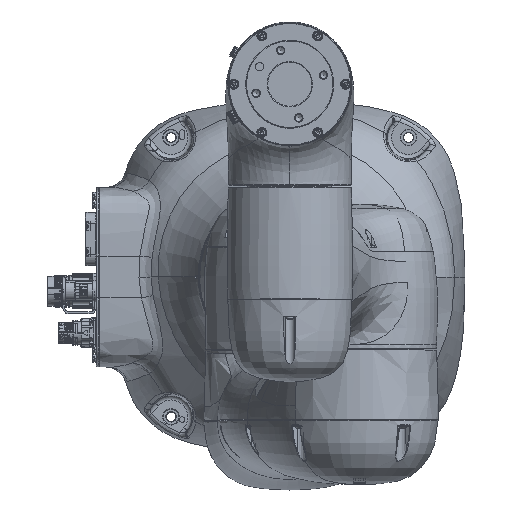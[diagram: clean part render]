
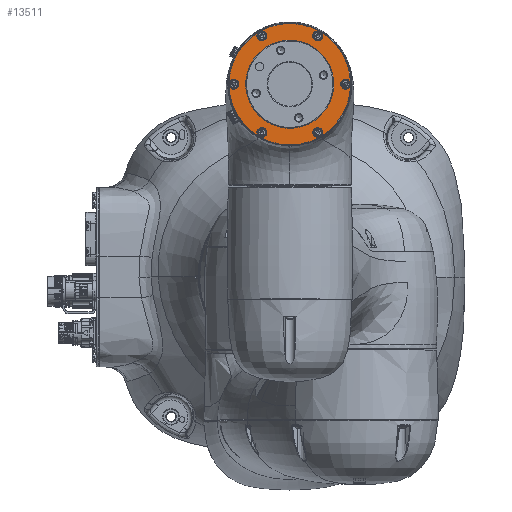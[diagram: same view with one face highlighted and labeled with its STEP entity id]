
A CAD part, top view. The second image highlights one B-rep face of the part: STEP entity #13511.
In plain terms, the highlighted planar face has unit normal (0, 0, 1).
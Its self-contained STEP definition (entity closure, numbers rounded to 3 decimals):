
#13511=ADVANCED_FACE('',(#20976,#20977),#16430,.T.);
#16430=PLANE('',#101543);
#20976=FACE_BOUND('',#26836,.T.);
#20977=FACE_BOUND('',#26837,.T.);
#26836=EDGE_LOOP('',(#55969));
#26837=EDGE_LOOP('',(#55970,#55971,#55972,#55973,#55974,#55975,#55976,#55977,
#55978,#55979,#55980,#55981));
#29893=CIRCLE('',#101530,31.5);
#29894=CIRCLE('',#101531,3.55);
#29895=CIRCLE('',#101532,43.5);
#29896=CIRCLE('',#101533,3.55);
#29897=CIRCLE('',#101534,43.5);
#29898=CIRCLE('',#101535,3.55);
#29899=CIRCLE('',#101536,43.5);
#29900=CIRCLE('',#101537,3.55);
#29901=CIRCLE('',#101538,43.5);
#29902=CIRCLE('',#101539,3.55);
#29903=CIRCLE('',#101540,43.5);
#29904=CIRCLE('',#101541,3.55);
#29905=CIRCLE('',#101542,43.5);
#55969=ORIENTED_EDGE('',*,*,#79000,.F.);
#55970=ORIENTED_EDGE('',*,*,#79001,.T.);
#55971=ORIENTED_EDGE('',*,*,#79002,.T.);
#55972=ORIENTED_EDGE('',*,*,#79003,.T.);
#55973=ORIENTED_EDGE('',*,*,#79004,.T.);
#55974=ORIENTED_EDGE('',*,*,#79005,.T.);
#55975=ORIENTED_EDGE('',*,*,#79006,.T.);
#55976=ORIENTED_EDGE('',*,*,#79007,.T.);
#55977=ORIENTED_EDGE('',*,*,#79008,.T.);
#55978=ORIENTED_EDGE('',*,*,#79009,.T.);
#55979=ORIENTED_EDGE('',*,*,#79010,.T.);
#55980=ORIENTED_EDGE('',*,*,#79011,.T.);
#55981=ORIENTED_EDGE('',*,*,#79012,.T.);
#65605=VERTEX_POINT('',#281321);
#65606=VERTEX_POINT('',#281323);
#65607=VERTEX_POINT('',#281324);
#65608=VERTEX_POINT('',#281326);
#65609=VERTEX_POINT('',#281328);
#65610=VERTEX_POINT('',#281330);
#65611=VERTEX_POINT('',#281332);
#65612=VERTEX_POINT('',#281334);
#65613=VERTEX_POINT('',#281336);
#65614=VERTEX_POINT('',#281338);
#65615=VERTEX_POINT('',#281340);
#65616=VERTEX_POINT('',#281342);
#65617=VERTEX_POINT('',#281344);
#79000=EDGE_CURVE('',#65605,#65605,#29893,.T.);
#79001=EDGE_CURVE('',#65606,#65607,#29894,.T.);
#79002=EDGE_CURVE('',#65607,#65608,#29895,.T.);
#79003=EDGE_CURVE('',#65608,#65609,#29896,.T.);
#79004=EDGE_CURVE('',#65609,#65610,#29897,.T.);
#79005=EDGE_CURVE('',#65610,#65611,#29898,.T.);
#79006=EDGE_CURVE('',#65611,#65612,#29899,.T.);
#79007=EDGE_CURVE('',#65612,#65613,#29900,.T.);
#79008=EDGE_CURVE('',#65613,#65614,#29901,.T.);
#79009=EDGE_CURVE('',#65614,#65615,#29902,.T.);
#79010=EDGE_CURVE('',#65615,#65616,#29903,.T.);
#79011=EDGE_CURVE('',#65616,#65617,#29904,.T.);
#79012=EDGE_CURVE('',#65617,#65606,#29905,.T.);
#101530=AXIS2_PLACEMENT_3D('',#281320,#123279,#123280);
#101531=AXIS2_PLACEMENT_3D('',#281322,#123281,#123282);
#101532=AXIS2_PLACEMENT_3D('',#281325,#123283,#123284);
#101533=AXIS2_PLACEMENT_3D('',#281327,#123285,#123286);
#101534=AXIS2_PLACEMENT_3D('',#281329,#123287,#123288);
#101535=AXIS2_PLACEMENT_3D('',#281331,#123289,#123290);
#101536=AXIS2_PLACEMENT_3D('',#281333,#123291,#123292);
#101537=AXIS2_PLACEMENT_3D('',#281335,#123293,#123294);
#101538=AXIS2_PLACEMENT_3D('',#281337,#123295,#123296);
#101539=AXIS2_PLACEMENT_3D('',#281339,#123297,#123298);
#101540=AXIS2_PLACEMENT_3D('',#281341,#123299,#123300);
#101541=AXIS2_PLACEMENT_3D('',#281343,#123301,#123302);
#101542=AXIS2_PLACEMENT_3D('',#281345,#123303,#123304);
#101543=AXIS2_PLACEMENT_3D('',#281346,#123305,#123306);
#123279=DIRECTION('',(0.,0.,1.));
#123280=DIRECTION('',(-0.707,-0.707,0.));
#123281=DIRECTION('',(0.,0.,-1.));
#123282=DIRECTION('',(-0.707,0.707,0.));
#123283=DIRECTION('',(0.,0.,1.));
#123284=DIRECTION('',(-0.707,0.707,0.));
#123285=DIRECTION('',(0.,0.,-1.));
#123286=DIRECTION('',(-0.707,0.707,0.));
#123287=DIRECTION('',(0.,0.,1.));
#123288=DIRECTION('',(-0.707,0.707,0.));
#123289=DIRECTION('',(0.,0.,-1.));
#123290=DIRECTION('',(-0.707,0.707,0.));
#123291=DIRECTION('',(0.,0.,1.));
#123292=DIRECTION('',(-0.707,0.707,0.));
#123293=DIRECTION('',(0.,0.,-1.));
#123294=DIRECTION('',(-0.707,0.707,0.));
#123295=DIRECTION('',(0.,0.,1.));
#123296=DIRECTION('',(-0.707,0.707,0.));
#123297=DIRECTION('',(0.,0.,-1.));
#123298=DIRECTION('',(-0.707,0.707,0.));
#123299=DIRECTION('',(0.,0.,1.));
#123300=DIRECTION('',(-0.707,0.707,0.));
#123301=DIRECTION('',(0.,0.,-1.));
#123302=DIRECTION('',(-0.707,0.707,0.));
#123303=DIRECTION('',(0.,0.,1.));
#123304=DIRECTION('',(-0.707,0.707,0.));
#123305=DIRECTION('',(0.,0.,1.));
#123306=DIRECTION('',(-0.707,0.707,0.));
#281320=CARTESIAN_POINT('',(0.,0.,-6.5));
#281321=CARTESIAN_POINT('',(-22.274,-22.274,-6.5));
#281322=CARTESIAN_POINT('',(40.,0.,-6.5));
#281323=CARTESIAN_POINT('',(43.496,-0.619,-6.5));
#281324=CARTESIAN_POINT('',(43.496,0.619,-6.5));
#281325=CARTESIAN_POINT('',(0.,0.,-6.5));
#281326=CARTESIAN_POINT('',(22.284,37.359,-6.5));
#281327=CARTESIAN_POINT('',(20.,34.641,-6.5));
#281328=CARTESIAN_POINT('',(21.212,37.978,-6.5));
#281329=CARTESIAN_POINT('',(0.,0.,-6.5));
#281330=CARTESIAN_POINT('',(-21.212,37.978,-6.5));
#281331=CARTESIAN_POINT('',(-20.,34.641,-6.5));
#281332=CARTESIAN_POINT('',(-22.284,37.359,-6.5));
#281333=CARTESIAN_POINT('',(0.,0.,-6.5));
#281334=CARTESIAN_POINT('',(-43.496,0.619,-6.5));
#281335=CARTESIAN_POINT('',(-40.,0.,-6.5));
#281336=CARTESIAN_POINT('',(-43.496,-0.619,-6.5));
#281337=CARTESIAN_POINT('',(0.,0.,-6.5));
#281338=CARTESIAN_POINT('',(-22.284,-37.359,-6.5));
#281339=CARTESIAN_POINT('',(-20.,-34.641,-6.5));
#281340=CARTESIAN_POINT('',(-21.212,-37.978,-6.5));
#281341=CARTESIAN_POINT('',(0.,0.,-6.5));
#281342=CARTESIAN_POINT('',(21.212,-37.978,-6.5));
#281343=CARTESIAN_POINT('',(20.,-34.641,-6.5));
#281344=CARTESIAN_POINT('',(22.284,-37.359,-6.5));
#281345=CARTESIAN_POINT('',(0.,0.,-6.5));
#281346=CARTESIAN_POINT('',(0.,0.,-6.5));
